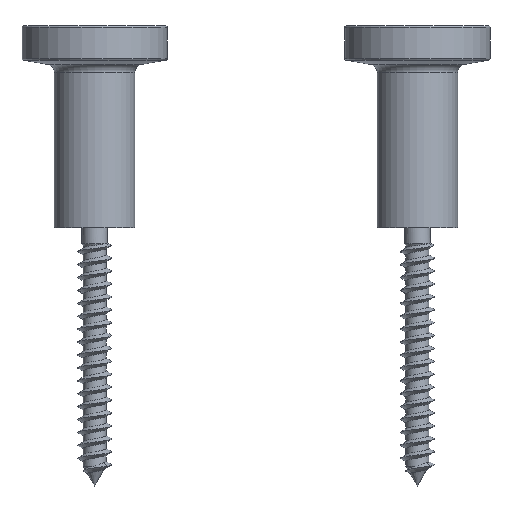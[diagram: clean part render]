
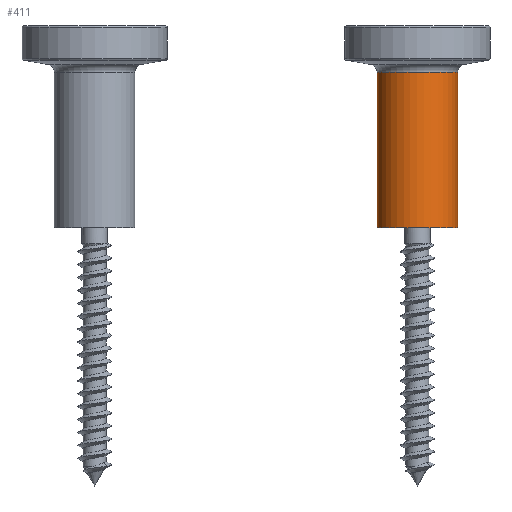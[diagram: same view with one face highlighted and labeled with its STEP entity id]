
A CAD part, left-side view. The second image highlights one B-rep face of the part: STEP entity #411.
In plain terms, the highlighted cylindrical face has radius 5 mm (diameter 10 mm), a partial arc.
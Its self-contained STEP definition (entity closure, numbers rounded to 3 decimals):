
#66=CARTESIAN_POINT('',(0.,0.,19.256));
#67=DIRECTION('',(0.,0.,1.));
#68=DIRECTION('',(0.,1.,0.));
#69=AXIS2_PLACEMENT_3D('',#66,#67,#68);
#71=DIRECTION('',(0.,0.,-1.));
#72=VECTOR('',#71,19.256);
#73=CARTESIAN_POINT('',(0.,-5.,19.256));
#74=LINE('',#73,#72);
#75=DIRECTION('',(0.,0.,-1.));
#76=VECTOR('',#75,19.256);
#77=CARTESIAN_POINT('',(0.,5.,19.256));
#78=LINE('',#77,#76);
#130=CARTESIAN_POINT('',(0.,0.,0.));
#131=DIRECTION('',(0.,0.,-1.));
#132=DIRECTION('',(0.,-1.,0.));
#133=AXIS2_PLACEMENT_3D('',#130,#131,#132);
#235=CARTESIAN_POINT('',(0.,5.,19.256));
#236=CARTESIAN_POINT('',(0.,-5.,19.256));
#237=VERTEX_POINT('',#235);
#238=VERTEX_POINT('',#236);
#243=CARTESIAN_POINT('',(0.,-5.,0.));
#244=VERTEX_POINT('',#243);
#245=CARTESIAN_POINT('',(0.,5.,0.));
#246=VERTEX_POINT('',#245);
#398=CARTESIAN_POINT('',(0.,0.,-1.25));
#399=DIRECTION('',(0.,0.,1.));
#400=DIRECTION('',(0.,1.,0.));
#401=AXIS2_PLACEMENT_3D('',#398,#399,#400);
#402=CYLINDRICAL_SURFACE('',#401,5.);
#404=ORIENTED_EDGE('',*,*,#403,.T.);
#405=ORIENTED_EDGE('',*,*,#393,.T.);
#407=ORIENTED_EDGE('',*,*,#406,.T.);
#408=ORIENTED_EDGE('',*,*,#389,.F.);
#409=EDGE_LOOP('',(#404,#405,#407,#408));
#410=FACE_OUTER_BOUND('',#409,.F.);
#411=ADVANCED_FACE('',(#410),#402,.T.);
#70=CIRCLE('',#69,5.);
#134=CIRCLE('',#133,5.);
#389=EDGE_CURVE('',#237,#246,#78,.T.);
#393=EDGE_CURVE('',#238,#244,#74,.T.);
#403=EDGE_CURVE('',#237,#238,#70,.T.);
#406=EDGE_CURVE('',#244,#246,#134,.T.);
